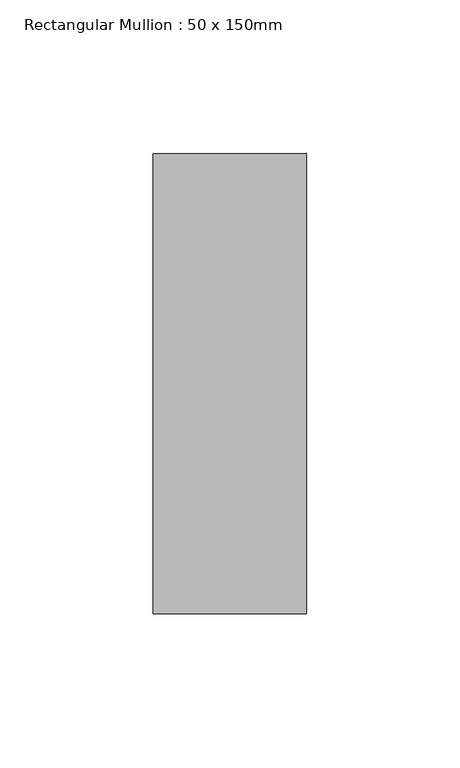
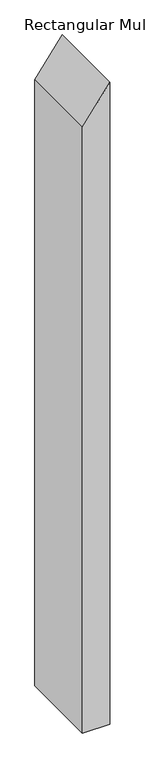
"""IFC4 building model written with IfcOpenShell, lengths in millimetres: member geometry, Rectangular Mullion : 50 x 150mm."""

from ifc_helpers import new_model, si_unit, frame, origin, place, context, project, spatial, polyline, outline, extrude, source, transform, mapped, element, save


def rectangular_mullion_50_x_150mm_4f5b6fb6(model_context):
    return source(origin(), model_context, "Body", "SweptSolid", [
        extrude(outline(polyline([(0.0, 0.0), (-69.4032756, -50.0), (-1237.6851582, -50.0), (-1237.6851582, 0.0), (0.0, 0.0)])), frame((0.0, -75.0, 0.0), z_axis=(0.0, 1.0, 0.0), x_axis=(0.0, 0.0, 1.0)), (0.0, 0.0, 1.0), 150.0),
    ])


if __name__ == "__main__":
    model = new_model("IFC4")
    model_context = context("Model", 3, world=origin())
    ifc_project = project(units=[si_unit("LENGTHUNIT", "METRE", prefix="MILLI")], contexts=[model_context])
    site = spatial("IfcSite", under=ifc_project)
    building = spatial("IfcBuilding", under=site)
    placement = place(None, origin())
    rectangular_mullion_50_x_150mm_shape = rectangular_mullion_50_x_150mm_4f5b6fb6(model_context)
    element("IfcMember", 1, ObjectType="Rectangular Mullion : 50 x 150mm", at=placement, inside=building, context=model_context, shape_type="MappedRepresentation", body=[
        mapped(rectangular_mullion_50_x_150mm_shape, transform((0.0, 0.0, 0.0), x_axis=(1.0, 0.0, 0.0), y_axis=(0.0, 1.0, 0.0), z_axis=(0.0, 0.0, 1.0))),
    ])
    save(model, "model.ifc")
